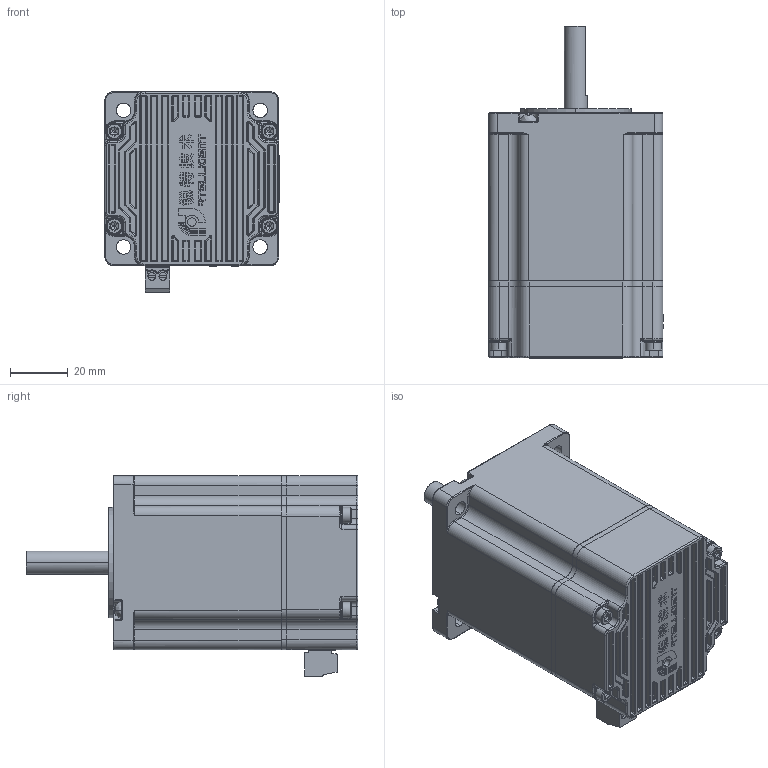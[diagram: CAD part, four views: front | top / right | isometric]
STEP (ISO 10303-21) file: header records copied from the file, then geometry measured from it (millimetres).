
FILE_DESCRIPTION (( 'STEP AP214' ), '1' );
FILE_NAME ('ITD57AM21-D0830-24V-M.STEP', '2024-10-14T07:28:47', ( 'Windows 蚚誧' ), ( '' ), 'SwSTEP 2.0', 'SolidWorks 2020', '' );
FILE_SCHEMA (( 'AUTOMOTIVE_DESIGN' ));
Length unit declared in the file: millimetre
Products named in the file (1): ITD57AM21-D0830-24V-M
Bounding box: 60.1 x 114.51 x 69.2 mm (x, y, z)
Surface area: 78520.5 mm2 (no closed solid volume)
Topology: 0 solids, 83 shells, 3423 faces, 9034 edges, 5811 vertices
Faces by surface type: plane 1353, cylinder 1174, torus 408, bspline 273, cone 126, sphere 89
Entity records: 149917 total; most frequent: CARTESIAN_POINT 54755, ORIENTED_EDGE 17938, DIRECTION 11921, EDGE_CURVE 8971, VERTEX_POINT 5812, AXIS2_PLACEMENT_3D 4699, B_SPLINE_CURVE_WITH_KNOTS 4678, EDGE_LOOP 3649
